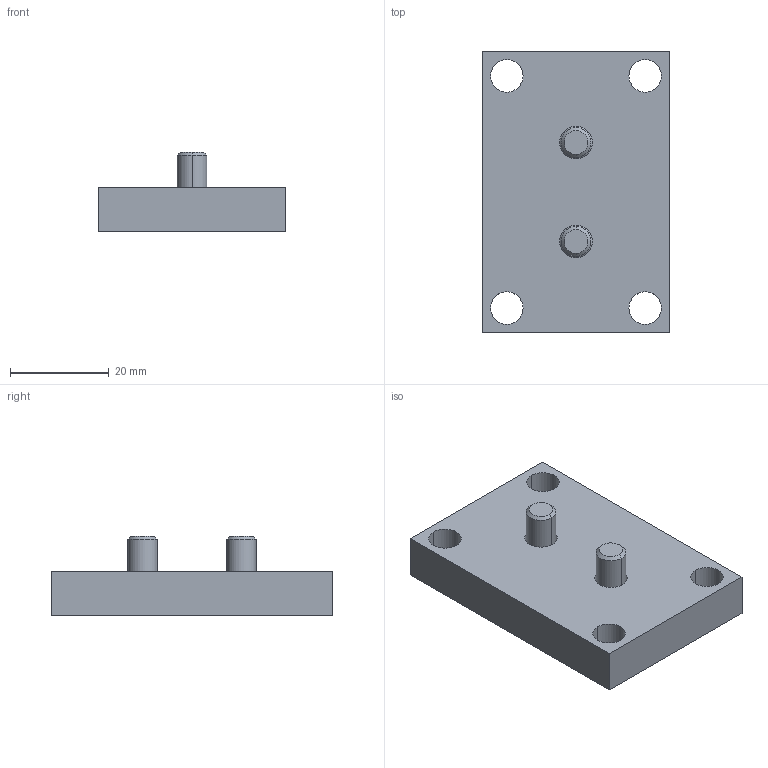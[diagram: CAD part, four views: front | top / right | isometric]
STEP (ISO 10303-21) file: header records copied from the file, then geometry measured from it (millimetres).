
FILE_DESCRIPTION(/* description */ (''),/* implementation_level */ '2;1');
FILE_NAME(/* name */ '3d_hm-38_04127_r00.stp',/* time_stamp */ '2011-01-10T14:14:42+09:00',/* author */ ('MISUMI'),/* organization */ (''),/* preprocessor_version */ 'ST-DEVELOPER v11',/* originating_system */ 'UGS - NX 5.0',/* authorisation */ '');
FILE_SCHEMA (('CONFIG_CONTROL_DESIGN'));
Length unit declared in the file: millimetre
Products named in the file (1): 3d_hm-38_04127_r00
Bounding box: 38 x 57 x 16 mm (x, y, z)
Volume: 18495.7 mm3; surface area: 7786.2 mm2
Topology: 3 solids, 3 shells, 52 faces, 120 edges, 76 vertices
Faces by surface type: plane 24, cylinder 16, cone 12
Entity records: 1578 total; most frequent: DIRECTION 270, CARTESIAN_POINT 249, ORIENTED_EDGE 240, EDGE_CURVE 120, AXIS2_PLACEMENT_3D 97, VERTEX_POINT 76, LINE 76, VECTOR 76
